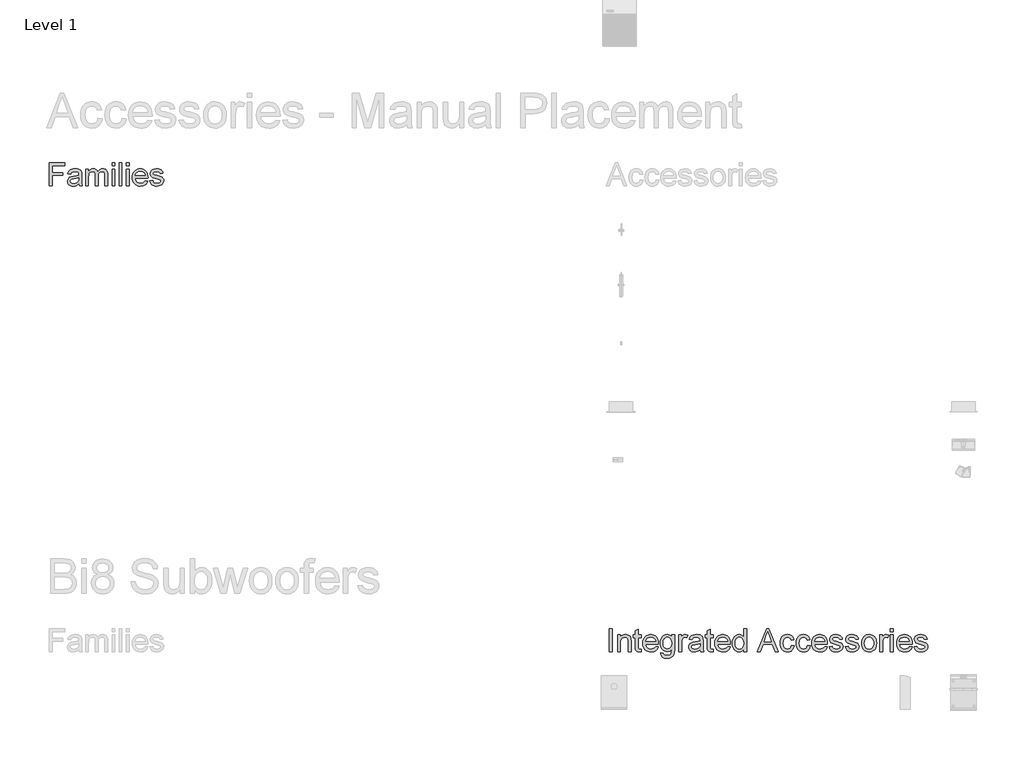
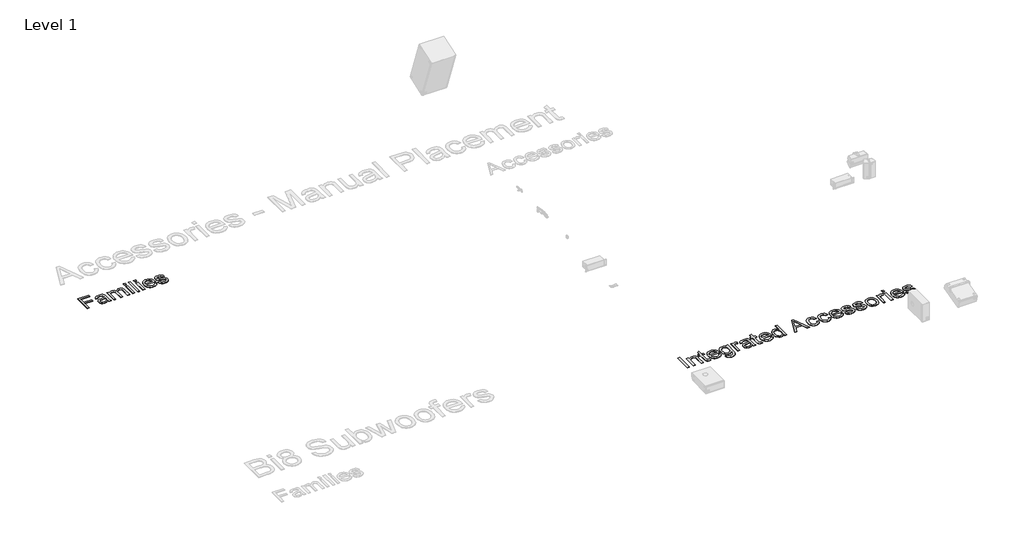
# One storey, part 3 of 12: 2 proxies.
"""IFC4 building model written with IfcOpenShell, lengths in millimetres."""

from ifc_helpers import new_model, si_unit, origin, origin_with_axes, place, context, project, spatial, polyline, outline, extrude, element, save

model = new_model("IFC4")

# Units and contexts
model_context = context("Model", 3, world=origin())
ifc_project = project(units=[si_unit("LENGTHUNIT", "METRE", prefix="MILLI")], contexts=[model_context])

# Site, building, storey
site = spatial("IfcSite", under=ifc_project)
building = spatial("IfcBuilding", under=site)
storey = spatial("IfcBuildingStorey", under=building, Name="Level 1", Elevation=0.0)

# Proxies
placement = place(None, origin())
element("IfcBuildingElementProxy", 1, Name="400mm Arial", ObjectType="400mm Arial", at=placement, inside=storey, context=model_context, shape_type="SweptSolid", body=[
    extrude(outline(polyline([(-21056.720891, -22148.6945164), (-21056.720891, -21756.9369407), (-20793.5087698, -21756.9369407), (-20793.5087698, -21805.9066376), (-21007.7511941, -21805.9066376), (-21007.7511941, -21922.2096679), (-20824.1148304, -21922.2096679), (-20824.1148304, -21971.1793649), (-21007.7511941, -21971.1793649), (-21007.7511941, -22148.6945164), (-21056.720891, -22148.6945164)])), origin_with_axes(), (0.0, 0.0, 1.0), 5.0),
    extrude(outline(polyline([(-20548.660285, -22111.9672437), (-20572.0571836, -22132.02856), (-20596.1475009, -22145.1556907), (-20621.4811893, -22152.4007191), (-20648.6082016, -22154.8157285), (-20670.4120309, -22153.3631362), (-20689.5318522, -22149.0053592), (-20705.9676654, -22141.7423976), (-20719.7194706, -22131.5742513), (-20730.5780466, -22119.1465169), (-20738.3341723, -22105.104791), (-20742.9878477, -22089.4490737), (-20744.5390729, -22072.1793649), (-20742.1957963, -22051.8789388), (-20735.1659668, -22033.4435695), (-20724.3223352, -22017.6623195), (-20710.5376524, -22005.3242513), (-20676.2493001, -21989.2560695), (-20633.879035, -21981.8914861), (-20583.8094327, -21974.144327), (-20548.9472168, -21965.0581528), (-20548.660285, -21954.1547437), (-20552.0317338, -21932.3001035), (-20562.1460804, -21918.0013346), (-20584.7658721, -21907.3848573), (-20616.2805501, -21903.8460316), (-20645.4519516, -21906.2012636), (-20665.8241107, -21913.2669596), (-20679.7163929, -21926.3343128), (-20689.4481638, -21946.6945164), (-20738.4178607, -21940.5733043), (-20729.9175056, -21913.7930013), (-20717.2327282, -21892.7513346), (-20699.1799346, -21876.6592418), (-20674.5755312, -21864.7276604), (-20644.4835568, -21857.339166), (-20609.9680501, -21854.8763346), (-20576.8632916, -21857.0522342), (-20550.6209857, -21863.5799331), (-20530.8346458, -21873.3953924), (-20517.097785, -21885.4345732), (-20507.9876997, -21900.3191613), (-20502.0816865, -21918.6708422), (-20499.690588, -21961.519327), (-20499.690588, -22022.4445164), (-20497.2038456, -22107.5198005), (-20487.4481638, -22148.6945164), (-20536.4178607, -22148.6945164), (-20544.2606638, -22131.6698952), (-20548.660285, -22111.9672437)]), holes=[polyline([(-20548.660285, -22014.0278498), (-20581.5618001, -22022.1814956), (-20627.6621789, -22029.0439482), (-20669.7933342, -22036.9823952), (-20680.7565208, -22042.4101888), (-20688.8743001, -22049.894327), (-20693.8956069, -22058.8609464), (-20695.5693759, -22068.7361831), (-20691.9229507, -22083.2979729), (-20680.9836751, -22095.2295543), (-20662.990659, -22103.1919123), (-20638.1830122, -22105.8460316), (-20611.8809289, -22102.9169359), (-20588.6394516, -22094.129649), (-20569.7975956, -22081.1818507), (-20556.6943759, -22065.771221), (-20550.8840066, -22049.894327), (-20548.9472168, -22027.896221), (-20548.660285, -22014.0278498)])]), origin_with_axes(), (0.0, 0.0, 1.0), 5.0),
    extrude(outline(polyline([(-20432.3572547, -22148.6945164), (-20432.3572547, -21860.9975467), (-20383.3875577, -21860.9975467), (-20383.3875577, -21908.3412967), (-20368.658391, -21886.594256), (-20349.720891, -21869.5576793), (-20327.2206543, -21858.5466708), (-20301.8032774, -21854.8763346), (-20274.5686657, -21858.6184037), (-20252.7379365, -21869.8446111), (-20236.4306448, -21887.8137162), (-20225.7663456, -21911.7844785), (-20207.9167954, -21886.8871656), (-20187.5565918, -21869.1033706), (-20164.6857348, -21858.4330936), (-20139.3042244, -21854.8763346), (-20119.7002057, -21856.3558268), (-20102.4932632, -21860.7943034), (-20087.683397, -21868.1917643), (-20075.2706069, -21878.5482096), (-20065.4581365, -21891.9831942), (-20058.4492291, -21908.6162731), (-20054.2438846, -21928.4474461), (-20052.8421032, -21951.4767134), (-20052.8421032, -22148.6945164), (-20101.8118001, -22148.6945164), (-20101.8118001, -21972.5183801), (-20106.3548872, -21931.630596), (-20112.7391202, -21920.3565666), (-20122.8056448, -21911.4975467), (-20135.7534431, -21905.7589104), (-20150.7814971, -21903.8460316), (-20177.3107348, -21908.7477835), (-20198.9382206, -21923.4530392), (-20207.3279874, -21934.7330463), (-20213.320678, -21948.96606), (-20218.1148304, -21986.2911073), (-20218.1148304, -22148.6945164), (-20267.0845274, -22148.6945164), (-20267.0845274, -21967.0666755), (-20269.9179791, -21939.3777551), (-20278.4183342, -21919.6272816), (-20293.3746552, -21907.7913441), (-20315.5760047, -21903.8460316), (-20334.4417717, -21906.4762399), (-20351.8250577, -21914.3668649), (-20366.1716486, -21927.3266187), (-20375.9273304, -21945.1642134), (-20381.5225009, -21969.9120827), (-20383.3875577, -22003.6026604), (-20383.3875577, -22148.6945164), (-20432.3572547, -22148.6945164)])), origin_with_axes(), (0.0, 0.0, 1.0), 5.0),
    extrude(outline(polyline([(-19979.3875577, -22148.6945164), (-19979.3875577, -21860.9975467), (-19930.4178607, -21860.9975467), (-19930.4178607, -22148.6945164), (-19979.3875577, -22148.6945164)])), origin_with_axes(), (0.0, 0.0, 1.0), 5.0),
    extrude(outline(polyline([(-19979.3875577, -21805.9066376), (-19979.3875577, -21756.9369407), (-19930.4178607, -21756.9369407), (-19930.4178607, -21805.9066376), (-19979.3875577, -21805.9066376)])), origin_with_axes(), (0.0, 0.0, 1.0), 5.0),
    extrude(outline(polyline([(-19856.9633153, -22148.6945164), (-19856.9633153, -21756.9369407), (-19807.9936183, -21756.9369407), (-19807.9936183, -22148.6945164), (-19856.9633153, -22148.6945164)])), origin_with_axes(), (0.0, 0.0, 1.0), 5.0),
    extrude(outline(polyline([(-19734.5390729, -22148.6945164), (-19734.5390729, -21860.9975467), (-19685.5693759, -21860.9975467), (-19685.5693759, -22148.6945164), (-19734.5390729, -22148.6945164)])), origin_with_axes(), (0.0, 0.0, 1.0), 5.0),
    extrude(outline(polyline([(-19734.5390729, -21805.9066376), (-19734.5390729, -21756.9369407), (-19685.5693759, -21756.9369407), (-19685.5693759, -21805.9066376), (-19734.5390729, -21805.9066376)])), origin_with_axes(), (0.0, 0.0, 1.0), 5.0),
    extrude(outline(polyline([(-19410.6886941, -22062.9975467), (-19362.6754365, -22069.1187589), (-19370.0370309, -22088.3491684), (-19379.975034, -22105.2960789), (-19392.4894457, -22119.9594904), (-19407.580266, -22132.3394028), (-19425.0920736, -22142.1727953), (-19444.8694469, -22149.1966471), (-19491.220891, -22154.8157285), (-19521.605775, -22152.3917525), (-19548.6789876, -22145.1198242), (-19572.4405288, -22132.9999437), (-19592.8903986, -22116.0321111), (-19609.3351784, -22094.6885683), (-19621.0814497, -22069.4415571), (-19628.1292125, -22040.2910777), (-19630.4784668, -22007.2371301), (-19628.1053015, -21973.062355), (-19620.9858058, -21942.9404918), (-19609.1199796, -21916.8715406), (-19592.5078229, -21894.8555013), (-19572.1117528, -21877.3646159), (-19548.8941865, -21864.8711263), (-19522.855124, -21857.3750325), (-19493.9945653, -21854.8763346), (-19466.0635461, -21857.3690548), (-19440.8045795, -21864.8472153), (-19418.2176654, -21877.3108161), (-19398.3028039, -21894.7598573), (-19382.0463231, -21916.7280747), (-19370.4345511, -21942.7492039), (-19363.4674879, -21972.8232451), (-19361.1451335, -22006.9501982), (-19361.4320653, -22020.1490619), (-19581.5087698, -22020.1490619), (-19578.6723292, -22039.6903142), (-19573.0323257, -22056.8046017), (-19564.5887592, -22071.4919241), (-19553.3416297, -22083.7522816), (-19524.9234242, -22100.3225941), (-19490.2644516, -22105.8460316), (-19464.2014782, -22103.2875562), (-19442.2511941, -22095.6121301), (-19424.4135994, -22082.3415335), (-19410.6886941, -22062.9975467)]), holes=[polyline([(-19581.5087698, -21971.1793649), (-19410.1148304, -21971.1793649), (-19416.7381732, -21945.3076793), (-19429.721838, -21926.800577), (-19443.076123, -21916.7579634), (-19458.2715539, -21909.5846679), (-19494.1858532, -21903.8460316), (-19527.1949677, -21908.4249852), (-19554.4893569, -21922.161846), (-19573.4627234, -21943.5741329), (-19581.5087698, -21971.1793649)])]), origin_with_axes(), (0.0, 0.0, 1.0), 5.0),
    extrude(outline(polyline([(-19330.5390729, -22062.9975467), (-19281.5693759, -22056.8763346), (-19273.8461278, -22077.8223573), (-19258.9017622, -22093.2210316), (-19236.6406354, -22102.6897816), (-19206.9671032, -22105.8460316), (-19177.6522357, -22102.9528024), (-19157.0409668, -22094.2731149), (-19144.8463645, -22081.6959369), (-19140.7814971, -22067.1102361), (-19144.8702755, -22054.628702), (-19157.1366107, -22045.1121301), (-19207.5409668, -22031.1481149), (-19281.2824441, -22007.1893081), (-19299.9449677, -21995.1501272), (-19313.4666297, -21979.2134558), (-19321.680053, -21960.3955107), (-19324.4178607, -21939.7125089), (-19322.2180501, -21920.7391424), (-19315.6186183, -21903.224346), (-19305.2173399, -21887.8615382), (-19291.6119895, -21875.3441376), (-19260.4798872, -21860.8540808), (-19218.3487319, -21854.8763346), (-19186.4753891, -21857.2793886), (-19158.7625577, -21864.4885505), (-19136.4775198, -21875.7984464), (-19120.8875577, -21890.503702), (-19110.5580122, -21909.6922674), (-19104.0542244, -21934.4520922), (-19153.0239213, -21940.5733043), (-19159.2049109, -21925.1626746), (-19171.4353797, -21913.5538914), (-19189.8348825, -21906.2729965), (-19214.5229744, -21903.8460316), (-19242.6422925, -21906.1653971), (-19261.3885047, -21913.1234937), (-19271.933249, -21923.1661073), (-19275.4481638, -21934.739024), (-19269.6138835, -21948.989971), (-19251.345891, -21959.7977361), (-19209.1669138, -21970.2229255), (-19137.2904933, -21993.2731149), (-19118.3051713, -22004.2960789), (-19103.9107585, -22019.3839104), (-19094.8365397, -22038.5844312), (-19091.8118001, -22061.9454634), (-19095.3625814, -22086.0955581), (-19106.0149251, -22108.8109937), (-19123.3623446, -22128.3104018), (-19146.9983532, -22142.8124142), (-19175.5480691, -22151.8149), (-19207.6366107, -22154.8157285), (-19233.9924938, -22153.369114), (-19257.0127944, -22149.0292702), (-19276.6975127, -22141.7961973), (-19293.0466486, -22131.6698952), (-19306.4009336, -22118.6981859), (-19317.1010994, -22102.9288914), (-19325.1471458, -22084.3620117), (-19330.5390729, -22062.9975467)])), origin_with_axes(), (0.0, 0.0, 1.0), 5.0),
])
element("IfcBuildingElementProxy", 2, Name="400mm Arial", ObjectType="400mm Arial", at=placement, inside=storey, context=model_context, shape_type="SweptSolid", body=[
    extrude(outline(polyline([(-11437.7764845, -30148.6945164), (-11437.7764845, -29756.9369407), (-11388.8067875, -29756.9369407), (-11388.8067875, -30148.6945164), (-11437.7764845, -30148.6945164)])), origin_with_axes(), (0.0, 0.0, 1.0), 5.0),
    extrude(outline(polyline([(-11296.9886057, -30148.6945164), (-11296.9886057, -29860.9975467), (-11248.0189088, -29860.9975467), (-11248.0189088, -29901.1680013), (-11231.006243, -29880.9153971), (-11210.5743065, -29866.4492513), (-11186.7230991, -29857.7695638), (-11159.4526209, -29854.8763346), (-11135.3144817, -29857.2076556), (-11113.2087762, -29864.2016187), (-11094.7734069, -29874.9854729), (-11081.6462762, -29888.6864672), (-11072.7394343, -29905.2687352), (-11066.9649315, -29924.6964104), (-11064.3825451, -29972.0401604), (-11064.3825451, -30148.6945164), (-11113.3522421, -30148.6945164), (-11113.3522421, -29978.6395922), (-11114.7629902, -29953.3178592), (-11118.9952345, -29935.3128876), (-11126.8021711, -29922.4129113), (-11138.9369959, -29912.4061642), (-11154.4910915, -29905.9860647), (-11172.5558406, -29903.8460316), (-11201.2370669, -29908.6521395), (-11225.6860489, -29923.0704634), (-11235.4566751, -29934.8406457), (-11242.4356938, -29950.9267607), (-11246.623105, -29971.3288086), (-11248.0189088, -29996.0467892), (-11248.0189088, -30148.6945164), (-11296.9886057, -30148.6945164)])), origin_with_axes(), (0.0, 0.0, 1.0), 5.0),
    extrude(outline(polyline([(-10892.9886057, -30107.8545543), (-10886.8673936, -30150.1291755), (-10923.4990224, -30154.8157285), (-10947.0035205, -30152.7832948), (-10964.5302724, -30146.6859937), (-10976.9161625, -30137.2889767), (-10984.9980754, -30125.3573952), (-10989.4455186, -30104.8656812), (-10990.9279997, -30069.7882664), (-10990.9279997, -29909.9672437), (-11027.6552724, -29909.9672437), (-11027.6552724, -29860.9975467), (-10990.9279997, -29860.9975467), (-10990.9279997, -29791.081827), (-10941.9583027, -29762.2930013), (-10941.9583027, -29860.9975467), (-10892.9886057, -29860.9975467), (-10892.9886057, -29909.9672437), (-10941.9583027, -29909.9672437), (-10941.9583027, -30068.3536073), (-10939.3759163, -30093.6036073), (-10931.0070716, -30102.5463157), (-10914.3172042, -30105.8460316), (-10892.9886057, -30107.8545543)])), origin_with_axes(), (0.0, 0.0, 1.0), 5.0),
    extrude(outline(polyline([(-10642.5927724, -30062.9975467), (-10594.5795148, -30069.1187589), (-10601.9411093, -30088.3491684), (-10611.8791124, -30105.2960789), (-10624.3935241, -30119.9594904), (-10639.4843444, -30132.3394028), (-10656.9961519, -30142.1727953), (-10676.7735252, -30149.1966471), (-10723.1249694, -30154.8157285), (-10753.5098534, -30152.3917525), (-10780.583066, -30145.1198242), (-10804.3446072, -30132.9999437), (-10824.7944769, -30116.0321111), (-10841.2392568, -30094.6885683), (-10852.9855281, -30069.4415571), (-10860.0332909, -30040.2910777), (-10862.3825451, -30007.2371301), (-10860.0093799, -29973.062355), (-10852.8898841, -29942.9404918), (-10841.0240579, -29916.8715406), (-10824.4119012, -29894.8555013), (-10804.0158311, -29877.3646159), (-10780.7982648, -29864.8711263), (-10754.7592023, -29857.3750325), (-10725.8986436, -29854.8763346), (-10697.9676244, -29857.3690548), (-10672.7086578, -29864.8472153), (-10650.1217438, -29877.3108161), (-10630.2068822, -29894.7598573), (-10613.9504014, -29916.7280747), (-10602.3386294, -29942.7492039), (-10595.3715662, -29972.8232451), (-10593.0492118, -30006.9501982), (-10593.3361436, -30020.1490619), (-10813.4128482, -30020.1490619), (-10810.5764076, -30039.6903142), (-10804.936404, -30056.8046017), (-10796.4928375, -30071.4919241), (-10785.245708, -30083.7522816), (-10756.8275025, -30100.3225941), (-10722.16853, -30105.8460316), (-10696.1055565, -30103.2875562), (-10674.1552724, -30095.6121301), (-10656.3176777, -30082.3415335), (-10642.5927724, -30062.9975467)]), holes=[polyline([(-10813.4128482, -29971.1793649), (-10642.0189088, -29971.1793649), (-10648.6422516, -29945.3076793), (-10661.6259163, -29926.800577), (-10674.9802014, -29916.7579634), (-10690.1756322, -29909.5846679), (-10726.0899315, -29903.8460316), (-10759.0990461, -29908.4249852), (-10786.3934353, -29922.161846), (-10805.3668018, -29943.5741329), (-10813.4128482, -29971.1793649)])]), origin_with_axes(), (0.0, 0.0, 1.0), 5.0),
    extrude(outline(polyline([(-10556.3219391, -30173.1793649), (-10507.3522421, -30179.300577), (-10501.9483595, -30194.6036073), (-10491.4753482, -30205.1244407), (-10470.8879902, -30213.3019975), (-10443.9403103, -30216.0278498), (-10415.1993065, -30212.9433327), (-10393.822886, -30203.6897816), (-10378.9980754, -30188.864971), (-10369.9119012, -30169.0666755), (-10366.5643633, -30111.9672437), (-10382.8596995, -30128.0354255), (-10401.0440035, -30139.5126982), (-10421.1172752, -30146.3990619), (-10443.0795148, -30148.6945164), (-10469.9285619, -30146.0224639), (-10493.5675593, -30138.0063062), (-10513.996507, -30124.6460434), (-10531.215405, -30105.9416755), (-10544.8775439, -30083.5012162), (-10554.6362146, -30058.9326793), (-10560.491417, -30032.2360647), (-10562.4431512, -30003.4113725), (-10558.9401919, -29963.874559), (-10548.4313141, -29927.5179066), (-10531.2871379, -29896.7086026), (-10507.8782838, -29873.8138346), (-10479.0057696, -29859.6107096), (-10445.4706133, -29854.8763346), (-10422.5698676, -29857.5543649), (-10401.785244, -29865.5884558), (-10383.1167426, -29878.9786073), (-10366.5643633, -29897.7248195), (-10366.5643633, -29860.9975467), (-10317.5946663, -29860.9975467), (-10317.5946663, -30109.3848573), (-10320.9422042, -30166.7353545), (-10330.9848179, -30204.5027551), (-10348.2844154, -30229.5495117), (-10373.402905, -30248.738077), (-10405.7903339, -30260.9326793), (-10444.8967497, -30264.9975467), (-10490.4591313, -30259.2708659), (-10509.6088413, -30252.1125148), (-10526.3375641, -30242.0908232), (-10539.8502594, -30229.1938358), (-10549.351887, -30213.4095969), (-10554.8424469, -30194.7381066), (-10556.3219391, -30173.1793649)]), holes=[polyline([(-10513.4734542, -30000.0638346), (-10508.248904, -30044.9806196), (-10501.7182163, -30062.1756066), (-10492.5752535, -30075.8616566), (-10481.4596344, -30086.3017903), (-10469.0109779, -30093.7590287), (-10455.229284, -30098.2333718), (-10440.1145527, -30099.7248195), (-10411.4333264, -30093.7948952), (-10387.7494959, -30076.0051225), (-10378.4810004, -30062.4535718), (-10371.8606464, -30045.5186168), (-10366.5643633, -30001.4984937), (-10372.0160679, -29959.0445401), (-10378.8306985, -29942.2739731), (-10388.3711815, -29928.474346), (-10412.4017213, -29910.0031102), (-10426.0847823, -29905.3853012), (-10440.8797042, -29903.8460316), (-10455.4265496, -29905.3613902), (-10468.843601, -29909.9074662), (-10492.2883216, -29928.0917702), (-10501.5568171, -29941.6821762), (-10508.1771711, -29958.2076556), (-10513.4734542, -30000.0638346)])]), origin_with_axes(), (0.0, 0.0, 1.0), 5.0),
    extrude(outline(polyline([(-10244.1401209, -30148.6945164), (-10244.1401209, -29860.9975467), (-10201.291636, -29860.9975467), (-10201.291636, -29903.5590998), (-10185.4625641, -29878.8829634), (-10170.8768633, -29864.3450846), (-10156.2433406, -29857.2435221), (-10140.2708027, -29854.8763346), (-10115.8815982, -29858.6542702), (-10091.1098179, -29869.988077), (-10107.4649315, -29913.8886452), (-10124.6808406, -29906.356685), (-10141.8967497, -29903.8460316), (-10156.5183169, -29906.261041), (-10169.5856701, -29913.5060695), (-10180.1423699, -29925.0311642), (-10187.2319769, -29940.2863725), (-10193.1858122, -29967.6405392), (-10195.1704239, -29997.4814482), (-10195.1704239, -30148.6945164), (-10244.1401209, -30148.6945164)])), origin_with_axes(), (0.0, 0.0, 1.0), 5.0),
    extrude(outline(polyline([(-9876.8673936, -30111.9672437), (-9900.2642923, -30132.02856), (-9924.3546095, -30145.1556907), (-9949.688298, -30152.4007191), (-9976.8153103, -30154.8157285), (-9998.6191396, -30153.3631362), (-10017.7389608, -30149.0053592), (-10034.1747741, -30141.7423976), (-10047.9265792, -30131.5742513), (-10058.7851552, -30119.1465169), (-10066.5412809, -30105.104791), (-10071.1949563, -30089.4490737), (-10072.7461815, -30072.1793649), (-10070.402905, -30051.8789388), (-10063.3730754, -30033.4435695), (-10052.5294438, -30017.6623195), (-10038.744761, -30005.3242513), (-10004.4564088, -29989.2560695), (-9962.0861436, -29981.8914861), (-9912.0165413, -29974.144327), (-9877.1543254, -29965.0581528), (-9876.8673936, -29954.1547437), (-9880.2388425, -29932.3001035), (-9890.3531891, -29918.0013346), (-9912.9729807, -29907.3848573), (-9944.4876588, -29903.8460316), (-9973.6590603, -29906.2012636), (-9994.0312194, -29913.2669596), (-10007.9235016, -29926.3343128), (-10017.6552724, -29946.6945164), (-10066.6249694, -29940.5733043), (-10058.1246143, -29913.7930013), (-10045.4398368, -29892.7513346), (-10027.3870432, -29876.6592418), (-10002.7826398, -29864.7276604), (-9972.6906654, -29857.339166), (-9938.1751588, -29854.8763346), (-9905.0704002, -29857.0522342), (-9878.8280944, -29863.5799331), (-9859.0417544, -29873.3953924), (-9845.3048936, -29885.4345732), (-9836.1948084, -29900.3191613), (-9830.2887951, -29918.6708422), (-9827.8976966, -29961.519327), (-9827.8976966, -30022.4445164), (-9825.4109542, -30107.5198005), (-9815.6552724, -30148.6945164), (-9864.6249694, -30148.6945164), (-9872.4677724, -30131.6698952), (-9876.8673936, -30111.9672437)]), holes=[polyline([(-9876.8673936, -30014.0278498), (-9909.7689088, -30022.1814956), (-9955.8692875, -30029.0439482), (-9998.0004429, -30036.9823952), (-10008.9636294, -30042.4101888), (-10017.0814088, -30049.894327), (-10022.1027156, -30058.8609464), (-10023.7764845, -30068.7361831), (-10020.1300593, -30083.2979729), (-10009.1907838, -30095.2295543), (-9991.1977677, -30103.1919123), (-9966.3901209, -30105.8460316), (-9940.0880375, -30102.9169359), (-9916.8465603, -30094.129649), (-9898.0047042, -30081.1818507), (-9884.9014845, -30065.771221), (-9879.0911152, -30049.894327), (-9877.1543254, -30027.896221), (-9876.8673936, -30014.0278498)])]), origin_with_axes(), (0.0, 0.0, 1.0), 5.0),
    extrude(outline(polyline([(-9656.5037572, -30107.8545543), (-9650.3825451, -30150.1291755), (-9687.0141739, -30154.8157285), (-9710.518672, -30152.7832948), (-9728.0454239, -30146.6859937), (-9740.4313141, -30137.2889767), (-9748.5132269, -30125.3573952), (-9752.9606701, -30104.8656812), (-9754.4431512, -30069.7882664), (-9754.4431512, -29909.9672437), (-9791.1704239, -29909.9672437), (-9791.1704239, -29860.9975467), (-9754.4431512, -29860.9975467), (-9754.4431512, -29791.081827), (-9705.4734542, -29762.2930013), (-9705.4734542, -29860.9975467), (-9656.5037572, -29860.9975467), (-9656.5037572, -29909.9672437), (-9705.4734542, -29909.9672437), (-9705.4734542, -30068.3536073), (-9702.8910679, -30093.6036073), (-9694.5222232, -30102.5463157), (-9677.8323557, -30105.8460316), (-9656.5037572, -30107.8545543)])), origin_with_axes(), (0.0, 0.0, 1.0), 5.0),
    extrude(outline(polyline([(-9406.1079239, -30062.9975467), (-9358.0946663, -30069.1187589), (-9365.4562608, -30088.3491684), (-9375.3942639, -30105.2960789), (-9387.9086756, -30119.9594904), (-9402.9994959, -30132.3394028), (-9420.5113034, -30142.1727953), (-9440.2886768, -30149.1966471), (-9486.6401209, -30154.8157285), (-9517.0250049, -30152.3917525), (-9544.0982175, -30145.1198242), (-9567.8597587, -30132.9999437), (-9588.3096285, -30116.0321111), (-9604.7544083, -30094.6885683), (-9616.5006796, -30069.4415571), (-9623.5484424, -30040.2910777), (-9625.8976966, -30007.2371301), (-9623.5245314, -29973.062355), (-9616.4050357, -29942.9404918), (-9604.5392094, -29916.8715406), (-9587.9270527, -29894.8555013), (-9567.5309826, -29877.3646159), (-9544.3134163, -29864.8711263), (-9518.2743538, -29857.3750325), (-9489.4137951, -29854.8763346), (-9461.4827759, -29857.3690548), (-9436.2238093, -29864.8472153), (-9413.6368953, -29877.3108161), (-9393.7220338, -29894.7598573), (-9377.4655529, -29916.7280747), (-9365.8537809, -29942.7492039), (-9358.8867177, -29972.8232451), (-9356.5643633, -30006.9501982), (-9356.8512951, -30020.1490619), (-9576.9279997, -30020.1490619), (-9574.0915591, -30039.6903142), (-9568.4515555, -30056.8046017), (-9560.007989, -30071.4919241), (-9548.7608595, -30083.7522816), (-9520.342654, -30100.3225941), (-9485.6836815, -30105.8460316), (-9459.620708, -30103.2875562), (-9437.6704239, -30095.6121301), (-9419.8328292, -30082.3415335), (-9406.1079239, -30062.9975467)]), holes=[polyline([(-9576.9279997, -29971.1793649), (-9405.5340603, -29971.1793649), (-9412.1574031, -29945.3076793), (-9425.1410679, -29926.800577), (-9438.4953529, -29916.7579634), (-9453.6907838, -29909.5846679), (-9489.605083, -29903.8460316), (-9522.6141976, -29908.4249852), (-9549.9085868, -29922.161846), (-9568.8819533, -29943.5741329), (-9576.9279997, -29971.1793649)])]), origin_with_axes(), (0.0, 0.0, 1.0), 5.0),
    extrude(outline(polyline([(-9130.0795148, -30148.6945164), (-9130.0795148, -30102.4984937), (-9144.7309708, -30125.3872839), (-9162.4788993, -30141.7364198), (-9183.3233003, -30151.5459014), (-9207.2641739, -30154.8157285), (-9238.9223179, -30150.0813535), (-9267.9024315, -30135.8782285), (-9292.4351019, -30113.1986594), (-9310.7509163, -30083.034952), (-9322.1564561, -30046.6065666), (-9325.9583027, -30005.1329634), (-9322.4553434, -29964.1734464), (-9311.9464656, -29927.1831528), (-9294.4436247, -29896.2662494), (-9269.9587762, -29873.5269028), (-9240.3450214, -29859.5389767), (-9207.4554618, -29854.8763346), (-9183.496655, -29858.211917), (-9162.3115224, -29868.2186642), (-9144.3543728, -29883.5575609), (-9130.0795148, -29902.8895922), (-9130.0795148, -29756.9369407), (-9081.1098179, -29756.9369407), (-9081.1098179, -30148.6945164), (-9130.0795148, -30148.6945164)]), holes=[polyline([(-9276.9886057, -30004.9416755), (-9271.4651682, -30049.236775), (-9264.5608714, -30066.5871833), (-9254.8948557, -30080.7394975), (-9230.816494, -30099.5693981), (-9217.2888543, -30104.2768732), (-9202.7689088, -30105.8460316), (-9174.733279, -30099.8563299), (-9151.2646474, -30081.8872248), (-9141.9961519, -30068.3267075), (-9135.375798, -30051.6039625), (-9130.0795148, -30008.6717892), (-9135.4714419, -29961.7345259), (-9142.2113508, -29943.6637991), (-9151.6472232, -29929.1916755), (-9163.0557518, -29918.1029563), (-9175.7136294, -29910.1824426), (-9189.620856, -29905.4301343), (-9204.7774315, -29903.8460316), (-9219.5843089, -29905.367368), (-9233.1119485, -29909.9313772), (-9245.3603505, -29917.5380593), (-9256.3295148, -29928.1874142), (-9265.3678671, -29942.112574), (-9271.823833, -29959.5466708), (-9276.9886057, -30004.9416755)])]), origin_with_axes(), (0.0, 0.0, 1.0), 5.0),
    extrude(outline(polyline([(-8894.1259163, -30148.6945164), (-8737.7480754, -29756.9369407), (-8696.0473179, -29756.9369407), (-8539.6694769, -30148.6945164), (-8591.4128482, -30148.6945164), (-8636.2698557, -30026.270274), (-8797.6211815, -30026.270274), (-8842.3825451, -30148.6945164), (-8894.1259163, -30148.6945164)]), holes=[polyline([(-8779.6401209, -29977.300577), (-8654.1552724, -29977.300577), (-8689.447886, -29880.9871301), (-8716.8976966, -29805.9066376), (-8741.2869012, -29872.5704634), (-8779.6401209, -29977.300577)])]), origin_with_axes(), (0.0, 0.0, 1.0), 5.0),
    extrude(outline(polyline([(-8309.8370906, -30044.6339104), (-8260.8673936, -30050.7551225), (-8266.1935655, -30073.8621005), (-8274.520566, -30094.3089814), (-8285.848395, -30112.0957652), (-8300.1770527, -30127.222452), (-8316.9027866, -30139.2945105), (-8335.4218444, -30147.9174094), (-8355.734226, -30153.0911488), (-8377.8399315, -30154.8157285), (-8405.3046865, -30152.4096857), (-8429.930012, -30145.1915571), (-8451.715908, -30133.1613429), (-8470.6623747, -30116.3190429), (-8485.9982826, -30094.9814778), (-8496.9525025, -30069.4654681), (-8503.5250345, -30039.7710138), (-8505.7158785, -30005.8981149), (-8501.9738093, -29962.320345), (-8490.7476019, -29924.5529445), (-8471.8579239, -29894.0544833), (-8445.1254429, -29872.2835316), (-8413.1445006, -29859.2281339), (-8378.5094391, -29854.8763346), (-8356.7833205, -29856.3707712), (-8337.1314798, -29860.8540808), (-8319.553917, -29868.3262636), (-8304.0506322, -29878.7873195), (-8290.8846462, -29891.9981386), (-8280.3189798, -29907.7196111), (-8272.353633, -29925.9517371), (-8266.9886057, -29946.6945164), (-8315.9583027, -29952.8157285), (-8324.8412336, -29931.4512636), (-8338.6737383, -29916.1362778), (-8356.6906654, -29906.9185931), (-8378.1268633, -29903.8460316), (-8394.7659199, -29905.3584014), (-8409.7730518, -29909.8955107), (-8423.1482589, -29917.4573597), (-8434.8915413, -29928.0439482), (-8444.4529464, -29941.900364), (-8451.2825214, -29959.2716945), (-8456.7461815, -30004.5590998), (-8451.4020764, -30050.4562352), (-8444.721945, -30067.9441317), (-8435.369761, -30081.7915808), (-8423.8596107, -30092.315403), (-8410.7055802, -30099.8324189), (-8395.9076694, -30104.3426284), (-8379.4658785, -30105.8460316), (-8354.108279, -30102.092007), (-8333.3176777, -30090.8299331), (-8318.1939798, -30071.7728782), (-8309.8370906, -30044.6339104)])), origin_with_axes(), (0.0, 0.0, 1.0), 5.0),
    extrude(outline(polyline([(-8034.3825451, -30044.6339104), (-7985.4128482, -30050.7551225), (-7990.73902, -30073.8621005), (-7999.0660205, -30094.3089814), (-8010.3938496, -30112.0957652), (-8024.7225072, -30127.222452), (-8041.4482411, -30139.2945105), (-8059.9672989, -30147.9174094), (-8080.2796805, -30153.0911488), (-8102.385386, -30154.8157285), (-8129.850141, -30152.4096857), (-8154.4754665, -30145.1915571), (-8176.2613626, -30133.1613429), (-8195.2078292, -30116.3190429), (-8210.5437371, -30094.9814778), (-8221.4979571, -30069.4654681), (-8228.070489, -30039.7710138), (-8230.261333, -30005.8981149), (-8226.5192639, -29962.320345), (-8215.2930565, -29924.5529445), (-8196.4033785, -29894.0544833), (-8169.6708974, -29872.2835316), (-8137.6899552, -29859.2281339), (-8103.0548936, -29854.8763346), (-8081.328775, -29856.3707712), (-8061.6769343, -29860.8540808), (-8044.0993716, -29868.3262636), (-8028.5960868, -29878.7873195), (-8015.4301008, -29891.9981386), (-8004.8644343, -29907.7196111), (-7996.8990875, -29925.9517371), (-7991.5340603, -29946.6945164), (-8040.5037572, -29952.8157285), (-8049.3866881, -29931.4512636), (-8063.2191929, -29916.1362778), (-8081.2361199, -29906.9185931), (-8102.6723179, -29903.8460316), (-8119.3113744, -29905.3584014), (-8134.3185063, -29909.8955107), (-8147.6937134, -29917.4573597), (-8159.4369959, -29928.0439482), (-8168.9984009, -29941.900364), (-8175.827976, -29959.2716945), (-8181.291636, -30004.5590998), (-8175.9475309, -30050.4562352), (-8169.2673995, -30067.9441317), (-8159.9152156, -30081.7915808), (-8148.4050652, -30092.315403), (-8135.2510347, -30099.8324189), (-8120.453124, -30104.3426284), (-8104.011333, -30105.8460316), (-8078.6537336, -30102.092007), (-8057.8631322, -30090.8299331), (-8042.7394343, -30071.7728782), (-8034.3825451, -30044.6339104)])), origin_with_axes(), (0.0, 0.0, 1.0), 5.0),
    extrude(outline(polyline([(-7741.1382269, -30062.9975467), (-7693.1249694, -30069.1187589), (-7700.4865638, -30088.3491684), (-7710.4245669, -30105.2960789), (-7722.9389786, -30119.9594904), (-7738.0297989, -30132.3394028), (-7755.5416064, -30142.1727953), (-7775.3189798, -30149.1966471), (-7821.6704239, -30154.8157285), (-7852.0553079, -30152.3917525), (-7879.1285205, -30145.1198242), (-7902.8900617, -30132.9999437), (-7923.3399315, -30116.0321111), (-7939.7847113, -30094.6885683), (-7951.5309826, -30069.4415571), (-7958.5787454, -30040.2910777), (-7960.9279997, -30007.2371301), (-7958.5548344, -29973.062355), (-7951.4353387, -29942.9404918), (-7939.5695125, -29916.8715406), (-7922.9573557, -29894.8555013), (-7902.5612857, -29877.3646159), (-7879.3437194, -29864.8711263), (-7853.3046569, -29857.3750325), (-7824.4440982, -29854.8763346), (-7796.513079, -29857.3690548), (-7771.2541124, -29864.8472153), (-7748.6671983, -29877.3108161), (-7728.7523368, -29894.7598573), (-7712.495856, -29916.7280747), (-7700.8840839, -29942.7492039), (-7693.9170207, -29972.8232451), (-7691.5946663, -30006.9501982), (-7691.8815982, -30020.1490619), (-7911.9583027, -30020.1490619), (-7909.1218621, -30039.6903142), (-7903.4818586, -30056.8046017), (-7895.038292, -30071.4919241), (-7883.7911625, -30083.7522816), (-7855.3729571, -30100.3225941), (-7820.7139845, -30105.8460316), (-7794.651011, -30103.2875562), (-7772.7007269, -30095.6121301), (-7754.8631322, -30082.3415335), (-7741.1382269, -30062.9975467)]), holes=[polyline([(-7911.9583027, -29971.1793649), (-7740.5643633, -29971.1793649), (-7747.1877061, -29945.3076793), (-7760.1713709, -29926.800577), (-7773.5256559, -29916.7579634), (-7788.7210868, -29909.5846679), (-7824.635386, -29903.8460316), (-7857.6445006, -29908.4249852), (-7884.9388898, -29922.161846), (-7903.9122563, -29943.5741329), (-7911.9583027, -29971.1793649)])]), origin_with_axes(), (0.0, 0.0, 1.0), 5.0),
    extrude(outline(polyline([(-7660.9886057, -30062.9975467), (-7612.0189088, -30056.8763346), (-7604.2956607, -30077.8223573), (-7589.3512951, -30093.2210316), (-7567.0901682, -30102.6897816), (-7537.416636, -30105.8460316), (-7508.1017686, -30102.9528024), (-7487.4904997, -30094.2731149), (-7475.2958974, -30081.6959369), (-7471.23103, -30067.1102361), (-7475.3198084, -30054.628702), (-7487.5861436, -30045.1121301), (-7537.9904997, -30031.1481149), (-7611.7319769, -30007.1893081), (-7630.3945006, -29995.1501272), (-7643.9161625, -29979.2134558), (-7652.1295858, -29960.3955107), (-7654.8673936, -29939.7125089), (-7652.667583, -29920.7391424), (-7646.0681512, -29903.224346), (-7635.6668728, -29887.8615382), (-7622.0615224, -29875.3441376), (-7590.9294201, -29860.8540808), (-7548.7982648, -29854.8763346), (-7516.924922, -29857.2793886), (-7489.2120906, -29864.4885505), (-7466.9270527, -29875.7984464), (-7451.3370906, -29890.503702), (-7441.0075451, -29909.6922674), (-7434.5037572, -29934.4520922), (-7483.4734542, -29940.5733043), (-7489.6544438, -29925.1626746), (-7501.8849125, -29913.5538914), (-7520.2844154, -29906.2729965), (-7544.9725072, -29903.8460316), (-7573.0918254, -29906.1653971), (-7591.8380375, -29913.1234937), (-7602.3827819, -29923.1661073), (-7605.8976966, -29934.739024), (-7600.0634163, -29948.989971), (-7581.7954239, -29959.7977361), (-7539.6164466, -29970.2229255), (-7467.7400262, -29993.2731149), (-7448.7547042, -30004.2960789), (-7434.3602913, -30019.3839104), (-7425.2860726, -30038.5844312), (-7422.261333, -30061.9454634), (-7425.8121143, -30086.0955581), (-7436.464458, -30108.8109937), (-7453.8118775, -30128.3104018), (-7477.447886, -30142.8124142), (-7505.9976019, -30151.8149), (-7538.0861436, -30154.8157285), (-7564.4420267, -30153.369114), (-7587.4623273, -30149.0292702), (-7607.1470456, -30141.7961973), (-7623.4961815, -30131.6698952), (-7636.8504665, -30118.6981859), (-7647.5506322, -30102.9288914), (-7655.5966786, -30084.3620117), (-7660.9886057, -30062.9975467)])), origin_with_axes(), (0.0, 0.0, 1.0), 5.0),
    extrude(outline(polyline([(-7385.5340603, -30062.9975467), (-7336.5643633, -30056.8763346), (-7328.8411152, -30077.8223573), (-7313.8967497, -30093.2210316), (-7291.6356228, -30102.6897816), (-7261.9620906, -30105.8460316), (-7232.6472232, -30102.9528024), (-7212.0359542, -30094.2731149), (-7199.8413519, -30081.6959369), (-7195.7764845, -30067.1102361), (-7199.8652629, -30054.628702), (-7212.1315982, -30045.1121301), (-7262.5359542, -30031.1481149), (-7336.2774315, -30007.1893081), (-7354.9399552, -29995.1501272), (-7368.4616171, -29979.2134558), (-7376.6750404, -29960.3955107), (-7379.4128482, -29939.7125089), (-7377.2130375, -29920.7391424), (-7370.6136057, -29903.224346), (-7360.2123273, -29887.8615382), (-7346.6069769, -29875.3441376), (-7315.4748747, -29860.8540808), (-7273.3437194, -29854.8763346), (-7241.4703766, -29857.2793886), (-7213.7575451, -29864.4885505), (-7191.4725072, -29875.7984464), (-7175.8825451, -29890.503702), (-7165.5529997, -29909.6922674), (-7159.0492118, -29934.4520922), (-7208.0189088, -29940.5733043), (-7214.1998983, -29925.1626746), (-7226.4303671, -29913.5538914), (-7244.8298699, -29906.2729965), (-7269.5179618, -29903.8460316), (-7297.63728, -29906.1653971), (-7316.3834921, -29913.1234937), (-7326.9282364, -29923.1661073), (-7330.4431512, -29934.739024), (-7324.6088709, -29948.989971), (-7306.3408785, -29959.7977361), (-7264.1619012, -29970.2229255), (-7192.2854807, -29993.2731149), (-7173.3001588, -30004.2960789), (-7158.9057459, -30019.3839104), (-7149.8315271, -30038.5844312), (-7146.8067875, -30061.9454634), (-7150.3575688, -30086.0955581), (-7161.0099125, -30108.8109937), (-7178.3573321, -30128.3104018), (-7201.9933406, -30142.8124142), (-7230.5430565, -30151.8149), (-7262.6315982, -30154.8157285), (-7288.9874812, -30153.369114), (-7312.0077819, -30149.0292702), (-7331.6925001, -30141.7961973), (-7348.041636, -30131.6698952), (-7361.3959211, -30118.6981859), (-7372.0960868, -30102.9288914), (-7380.1421332, -30084.3620117), (-7385.5340603, -30062.9975467)])), origin_with_axes(), (0.0, 0.0, 1.0), 5.0),
    extrude(outline(polyline([(-7103.9583027, -30004.8460316), (-7101.3101611, -29967.5867394), (-7093.3657364, -29935.4802645), (-7080.1250286, -29908.5266069), (-7061.5880375, -29886.7257664), (-7042.9255139, -29872.79164), (-7022.3262004, -29862.8386926), (-6999.7900972, -29856.8669241), (-6975.3172042, -29854.8763346), (-6948.3007802, -29857.3003107), (-6923.8727203, -29864.572239), (-6902.0330245, -29876.6921194), (-6882.7816929, -29893.659952), (-6867.0691869, -29914.9018732), (-6855.8459684, -29939.8440193), (-6849.1120373, -29968.4863902), (-6846.8673936, -30000.8289861), (-6850.8366171, -30050.3008138), (-6862.7442875, -30087.9606149), (-6882.2436957, -30116.1636215), (-6908.9881322, -30137.2650657), (-6940.7538756, -30150.4280628), (-6975.3172042, -30154.8157285), (-7002.7281595, -30152.4007191), (-7027.3833737, -30145.1556907), (-7049.282847, -30133.0806433), (-7068.4265792, -30116.175577), (-7083.9717082, -30094.7274236), (-7095.0753718, -30069.0231149), (-7101.73757, -30039.0626509), (-7103.9583027, -30004.8460316)]), holes=[polyline([(-7054.9886057, -30004.7503876), (-7053.5718799, -30028.5029622), (-7049.3217023, -30049.0693981), (-7042.2380731, -30066.4496952), (-7032.3209921, -30080.6438535), (-7020.2579002, -30091.6698064), (-7006.7362383, -30099.5454871), (-6991.7560063, -30104.2708955), (-6975.3172042, -30105.8460316), (-6958.9620906, -30104.2619288), (-6944.041636, -30099.5096206), (-6930.5558406, -30091.5891069), (-6918.5047042, -30080.5003876), (-6908.5876232, -30066.1657522), (-6901.503994, -30048.5074899), (-6897.2538164, -30027.5256007), (-6895.8370906, -30003.2200846), (-6897.262783, -29980.2207061), (-6901.5398605, -29960.1922674), (-6908.6683228, -29943.1347686), (-6918.6481701, -29929.0482096), (-6930.7441396, -29918.0222567), (-6944.2209684, -29910.1465761), (-6959.0786566, -29905.4211677), (-6975.3172042, -29903.8460316), (-6991.7560063, -29905.41519), (-7006.7362383, -29910.1226651), (-7020.2579002, -29917.968457), (-7032.3209921, -29928.9525657), (-7042.2380731, -29943.1048798), (-7049.3217023, -29960.4552882), (-7053.5718799, -29981.0037908), (-7054.9886057, -30004.7503876)])]), origin_with_axes(), (0.0, 0.0, 1.0), 5.0),
    extrude(outline(polyline([(-6791.7764845, -30148.6945164), (-6791.7764845, -29860.9975467), (-6748.9279997, -29860.9975467), (-6748.9279997, -29903.5590998), (-6733.0989277, -29878.8829634), (-6718.5132269, -29864.3450846), (-6703.8797042, -29857.2435221), (-6687.9071663, -29854.8763346), (-6663.5179618, -29858.6542702), (-6638.7461815, -29869.988077), (-6655.1012951, -29913.8886452), (-6672.3172042, -29906.356685), (-6689.5331133, -29903.8460316), (-6704.1546805, -29906.261041), (-6717.2220338, -29913.5060695), (-6727.7787336, -29925.0311642), (-6734.8683406, -29940.2863725), (-6740.8221758, -29967.6405392), (-6742.8067875, -29997.4814482), (-6742.8067875, -30148.6945164), (-6791.7764845, -30148.6945164)])), origin_with_axes(), (0.0, 0.0, 1.0), 5.0),
    extrude(outline(polyline([(-6608.1401209, -30148.6945164), (-6608.1401209, -29860.9975467), (-6559.1704239, -29860.9975467), (-6559.1704239, -30148.6945164), (-6608.1401209, -30148.6945164)])), origin_with_axes(), (0.0, 0.0, 1.0), 5.0),
    extrude(outline(polyline([(-6608.1401209, -29805.9066376), (-6608.1401209, -29756.9369407), (-6559.1704239, -29756.9369407), (-6559.1704239, -29805.9066376), (-6608.1401209, -29805.9066376)])), origin_with_axes(), (0.0, 0.0, 1.0), 5.0),
    extrude(outline(polyline([(-6284.2897421, -30062.9975467), (-6236.2764845, -30069.1187589), (-6243.638079, -30088.3491684), (-6253.5760821, -30105.2960789), (-6266.0904938, -30119.9594904), (-6281.1813141, -30132.3394028), (-6298.6931216, -30142.1727953), (-6318.4704949, -30149.1966471), (-6364.8219391, -30154.8157285), (-6395.2068231, -30152.3917525), (-6422.2800357, -30145.1198242), (-6446.0415768, -30132.9999437), (-6466.4914466, -30116.0321111), (-6482.9362265, -30094.6885683), (-6494.6824978, -30069.4415571), (-6501.7302606, -30040.2910777), (-6504.0795148, -30007.2371301), (-6501.7063496, -29973.062355), (-6494.5868538, -29942.9404918), (-6482.7210276, -29916.8715406), (-6466.1088709, -29894.8555013), (-6445.7128008, -29877.3646159), (-6422.4952345, -29864.8711263), (-6396.456172, -29857.3750325), (-6367.5956133, -29854.8763346), (-6339.6645941, -29857.3690548), (-6314.4056275, -29864.8472153), (-6291.8187134, -29877.3108161), (-6271.9038519, -29894.7598573), (-6255.6473711, -29916.7280747), (-6244.0355991, -29942.7492039), (-6237.0685359, -29972.8232451), (-6234.7461815, -30006.9501982), (-6235.0331133, -30020.1490619), (-6455.1098179, -30020.1490619), (-6452.2733773, -30039.6903142), (-6446.6333737, -30056.8046017), (-6438.1898072, -30071.4919241), (-6426.9426777, -30083.7522816), (-6398.5244722, -30100.3225941), (-6363.8654997, -30105.8460316), (-6337.8025262, -30103.2875562), (-6315.8522421, -30095.6121301), (-6298.0146474, -30082.3415335), (-6284.2897421, -30062.9975467)]), holes=[polyline([(-6455.1098179, -29971.1793649), (-6283.7158785, -29971.1793649), (-6290.3392213, -29945.3076793), (-6303.322886, -29926.800577), (-6316.6771711, -29916.7579634), (-6331.8726019, -29909.5846679), (-6367.7869012, -29903.8460316), (-6400.7960158, -29908.4249852), (-6428.090405, -29922.161846), (-6447.0637714, -29943.5741329), (-6455.1098179, -29971.1793649)])]), origin_with_axes(), (0.0, 0.0, 1.0), 5.0),
    extrude(outline(polyline([(-6204.1401209, -30062.9975467), (-6155.1704239, -30056.8763346), (-6147.4471758, -30077.8223573), (-6132.5028103, -30093.2210316), (-6110.2416834, -30102.6897816), (-6080.5681512, -30105.8460316), (-6051.2532838, -30102.9528024), (-6030.6420148, -30094.2731149), (-6018.4474125, -30081.6959369), (-6014.3825451, -30067.1102361), (-6018.4713235, -30054.628702), (-6030.7376588, -30045.1121301), (-6081.1420148, -30031.1481149), (-6154.8834921, -30007.1893081), (-6173.5460158, -29995.1501272), (-6187.0676777, -29979.2134558), (-6195.281101, -29960.3955107), (-6198.0189088, -29939.7125089), (-6195.8190982, -29920.7391424), (-6189.2196663, -29903.224346), (-6178.8183879, -29887.8615382), (-6165.2130375, -29875.3441376), (-6134.0809353, -29860.8540808), (-6091.94978, -29854.8763346), (-6060.0764372, -29857.2793886), (-6032.3636057, -29864.4885505), (-6010.0785679, -29875.7984464), (-5994.4886057, -29890.503702), (-5984.1590603, -29909.6922674), (-5977.6552724, -29934.4520922), (-6026.6249694, -29940.5733043), (-6032.8059589, -29925.1626746), (-6045.0364277, -29913.5538914), (-6063.4359305, -29906.2729965), (-6088.1240224, -29903.8460316), (-6116.2433406, -29906.1653971), (-6134.9895527, -29913.1234937), (-6145.534297, -29923.1661073), (-6149.0492118, -29934.739024), (-6143.2149315, -29948.989971), (-6124.9469391, -29959.7977361), (-6082.7679618, -29970.2229255), (-6010.8915413, -29993.2731149), (-5991.9062194, -30004.2960789), (-5977.5118065, -30019.3839104), (-5968.4375877, -30038.5844312), (-5965.4128482, -30061.9454634), (-5968.9636294, -30086.0955581), (-5979.6159732, -30108.8109937), (-5996.9633927, -30128.3104018), (-6020.5994012, -30142.8124142), (-6049.1491171, -30151.8149), (-6081.2376588, -30154.8157285), (-6107.5935418, -30153.369114), (-6130.6138425, -30149.0292702), (-6150.2985607, -30141.7961973), (-6166.6476966, -30131.6698952), (-6180.0019817, -30118.6981859), (-6190.7021474, -30102.9288914), (-6198.7481938, -30084.3620117), (-6204.1401209, -30062.9975467)])), origin_with_axes(), (0.0, 0.0, 1.0), 5.0),
])

save(model, "model.ifc")
